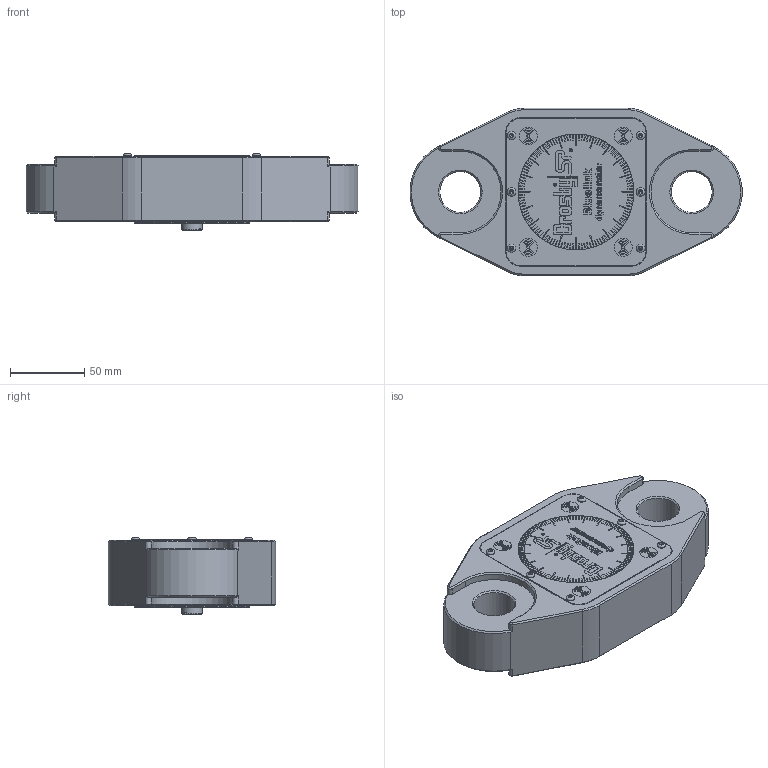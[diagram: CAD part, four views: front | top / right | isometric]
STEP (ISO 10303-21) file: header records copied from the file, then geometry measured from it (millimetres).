
FILE_DESCRIPTION(/* description */ (''),/* implementation_level */ '2;1');
FILE_NAME(/* name */ 'Bluelink Plus_Simplify_1.stp',/* time_stamp */ '2024-08-22T12:34:31+01:00',/* author */ ('Achacko'),/* organization */ (''),/* preprocessor_version */ 'ST-DEVELOPER v20',/* originating_system */ 'Autodesk Inventor 2025',/* authorisation */ '');
FILE_SCHEMA (('AUTOMOTIVE_DESIGN { 1 0 10303 214 3 1 1 }'));
Length unit declared in the file: inch
Products named in the file (1): Bluelink Plus_Simplify_1
Bounding box: 223.75 x 113 x 51.77 mm (x, y, z)
Volume: 764408.7 mm3; surface area: 82497.2 mm2
Topology: 1 solids, 1 shells, 1608 faces, 4238 edges, 2729 vertices
Faces by surface type: plane 1015, cylinder 399, bspline 140, cone 42, torus 12
Full cylindrical faces by diameter (mm): 2 x6, 2.1 x1, 2.25 x2, 5 x1, 5.7 x12, 8 x2, 8.1 x1, 12 x6, 14 x1, 16 x1, 27.5 x2, 68.2 x1, 78 x3
Entity records: 51979 total; most frequent: CARTESIAN_POINT 11028, ORIENTED_EDGE 8452, DIRECTION 7649, EDGE_CURVE 4226, LINE 2973, VECTOR 2973, VERTEX_POINT 2729, AXIS2_PLACEMENT_3D 2338
